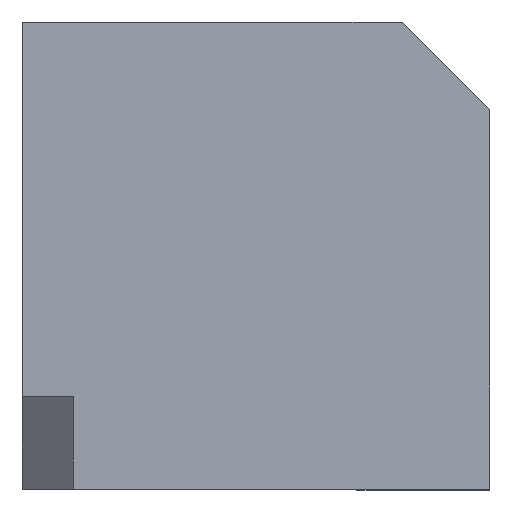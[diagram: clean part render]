
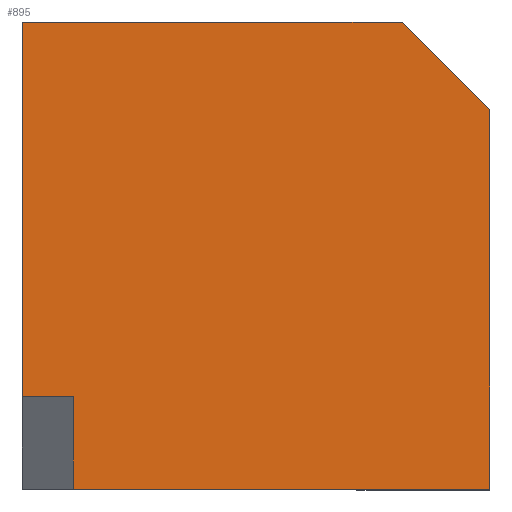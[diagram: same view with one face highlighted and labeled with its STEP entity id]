
A CAD part, top view. The second image highlights one B-rep face of the part: STEP entity #895.
In plain terms, the highlighted planar face has unit normal (0, 0, 1).
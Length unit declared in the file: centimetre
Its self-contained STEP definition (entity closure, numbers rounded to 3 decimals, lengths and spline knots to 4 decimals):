
#10 = VECTOR ( 'NONE', #1041, 100. ) ;
#28 = EDGE_CURVE ( 'NONE', #1248, #1245, #1584, .T. ) ;
#41 = CARTESIAN_POINT ( 'NONE',  ( 1000., 0., 1000. ) ) ;
#56 = DIRECTION ( 'NONE',  ( 1., 0., 0. ) ) ;
#90 = CARTESIAN_POINT ( 'NONE',  ( 1000., 1000., 1000. ) ) ;
#93 = CARTESIAN_POINT ( 'NONE',  ( 812.7018, 1000., 1000. ) ) ;
#95 = ORIENTED_EDGE ( 'NONE', *, *, #701, .T. ) ;
#145 = CARTESIAN_POINT ( 'NONE',  ( 0., 1000., 1000. ) ) ;
#167 = ORIENTED_EDGE ( 'NONE', *, *, #407, .T. ) ;
#194 = LINE ( 'NONE', #480, #1336 ) ;
#205 = DIRECTION ( 'NONE',  ( 0., -1., 0. ) ) ;
#224 = LINE ( 'NONE', #90, #1233 ) ;
#228 = DIRECTION ( 'NONE',  ( 0., 0., 1. ) ) ;
#238 = LINE ( 'NONE', #275, #487 ) ;
#275 = CARTESIAN_POINT ( 'NONE',  ( 0., 1000., 1000. ) ) ;
#291 = ORIENTED_EDGE ( 'NONE', *, *, #597, .T. ) ;
#324 = EDGE_CURVE ( 'NONE', #929, #1477, #415, .T. ) ;
#407 = EDGE_CURVE ( 'NONE', #1396, #929, #194, .T. ) ;
#415 = LINE ( 'NONE', #145, #762 ) ;
#439 = CARTESIAN_POINT ( 'NONE',  ( 0., 0., 1000. ) ) ;
#455 = EDGE_CURVE ( 'NONE', #1245, #1396, #224, .T. ) ;
#469 = VECTOR ( 'NONE', #56, 100. ) ;
#472 = LINE ( 'NONE', #996, #1399 ) ;
#480 = CARTESIAN_POINT ( 'NONE',  ( 906.3509, 906.3509, 1000. ) ) ;
#487 = VECTOR ( 'NONE', #771, 100. ) ;
#535 = DIRECTION ( 'NONE',  ( -1., 0., 0. ) ) ;
#597 = EDGE_CURVE ( 'NONE', #992, #1248, #472, .T. ) ;
#610 = DIRECTION ( 'NONE',  ( 1., 0., 0. ) ) ;
#616 = VERTEX_POINT ( 'NONE', #618 ) ;
#618 = CARTESIAN_POINT ( 'NONE',  ( 0., 198.2195, 1000. ) ) ;
#699 = CARTESIAN_POINT ( 'NONE',  ( 0., 1000., 1000. ) ) ;
#701 = EDGE_CURVE ( 'NONE', #1477, #616, #238, .T. ) ;
#762 = VECTOR ( 'NONE', #535, 100. ) ;
#769 = ORIENTED_EDGE ( 'NONE', *, *, #28, .T. ) ;
#771 = DIRECTION ( 'NONE',  ( 0., -1., 0. ) ) ;
#845 = ORIENTED_EDGE ( 'NONE', *, *, #324, .T. ) ;
#860 = PLANE ( 'NONE',  #1330 ) ;
#865 = DIRECTION ( 'NONE',  ( -0.707, 0.707, 0. ) ) ;
#895 = ADVANCED_FACE ( 'NONE', ( #1209 ), #860, .T. ) ;
#929 = VERTEX_POINT ( 'NONE', #93 ) ;
#964 = ORIENTED_EDGE ( 'NONE', *, *, #455, .T. ) ;
#992 = VERTEX_POINT ( 'NONE', #1625 ) ;
#996 = CARTESIAN_POINT ( 'NONE',  ( 109.19, 198.2195, 1000. ) ) ;
#1041 = DIRECTION ( 'NONE',  ( -1., 0., 0. ) ) ;
#1127 = EDGE_CURVE ( 'NONE', #992, #616, #1646, .T. ) ;
#1209 = FACE_OUTER_BOUND ( 'NONE', #1501, .T. ) ;
#1225 = CARTESIAN_POINT ( 'NONE',  ( 1000., 812.7018, 1000. ) ) ;
#1233 = VECTOR ( 'NONE', #1622, 100. ) ;
#1245 = VERTEX_POINT ( 'NONE', #41 ) ;
#1248 = VERTEX_POINT ( 'NONE', #1339 ) ;
#1330 = AXIS2_PLACEMENT_3D ( 'NONE', #1602, #228, #610 ) ;
#1336 = VECTOR ( 'NONE', #865, 100. ) ;
#1339 = CARTESIAN_POINT ( 'NONE',  ( 109.19, 0., 1000. ) ) ;
#1396 = VERTEX_POINT ( 'NONE', #1225 ) ;
#1399 = VECTOR ( 'NONE', #205, 100. ) ;
#1407 = CARTESIAN_POINT ( 'NONE',  ( 109.19, 198.2195, 1000. ) ) ;
#1477 = VERTEX_POINT ( 'NONE', #699 ) ;
#1501 = EDGE_LOOP ( 'NONE', ( #291, #769, #964, #167, #845, #95, #1530 ) ) ;
#1530 = ORIENTED_EDGE ( 'NONE', *, *, #1127, .F. ) ;
#1584 = LINE ( 'NONE', #439, #469 ) ;
#1602 = CARTESIAN_POINT ( 'NONE',  ( 0., 0., 1000. ) ) ;
#1622 = DIRECTION ( 'NONE',  ( 0., 1., 0. ) ) ;
#1625 = CARTESIAN_POINT ( 'NONE',  ( 109.19, 198.2195, 1000. ) ) ;
#1646 = LINE ( 'NONE', #1407, #10 ) ;
